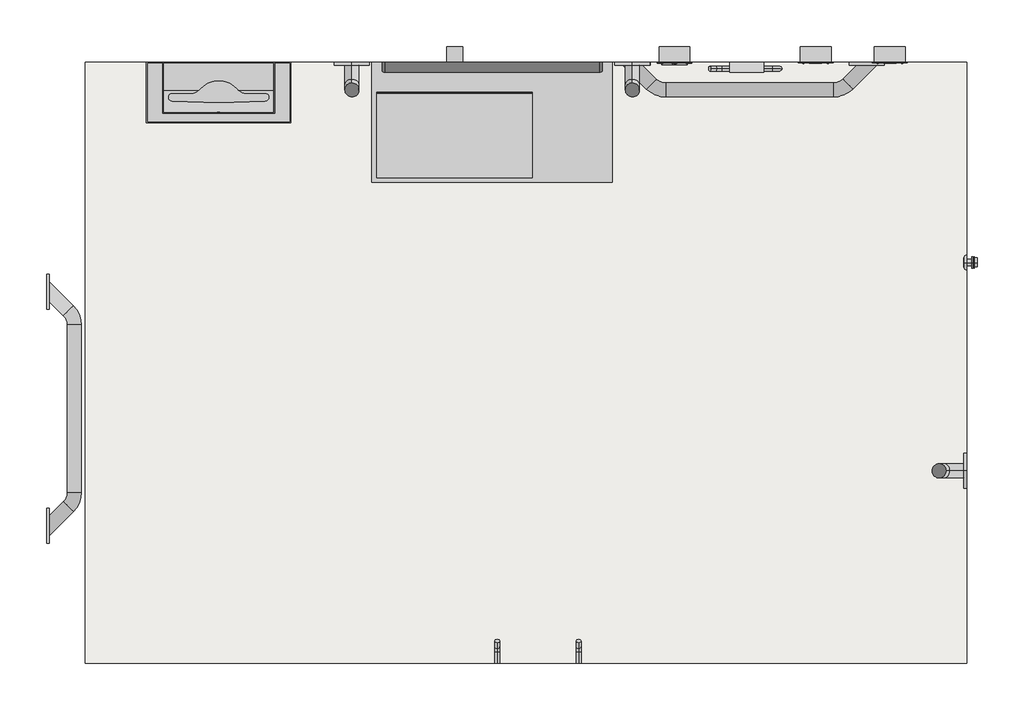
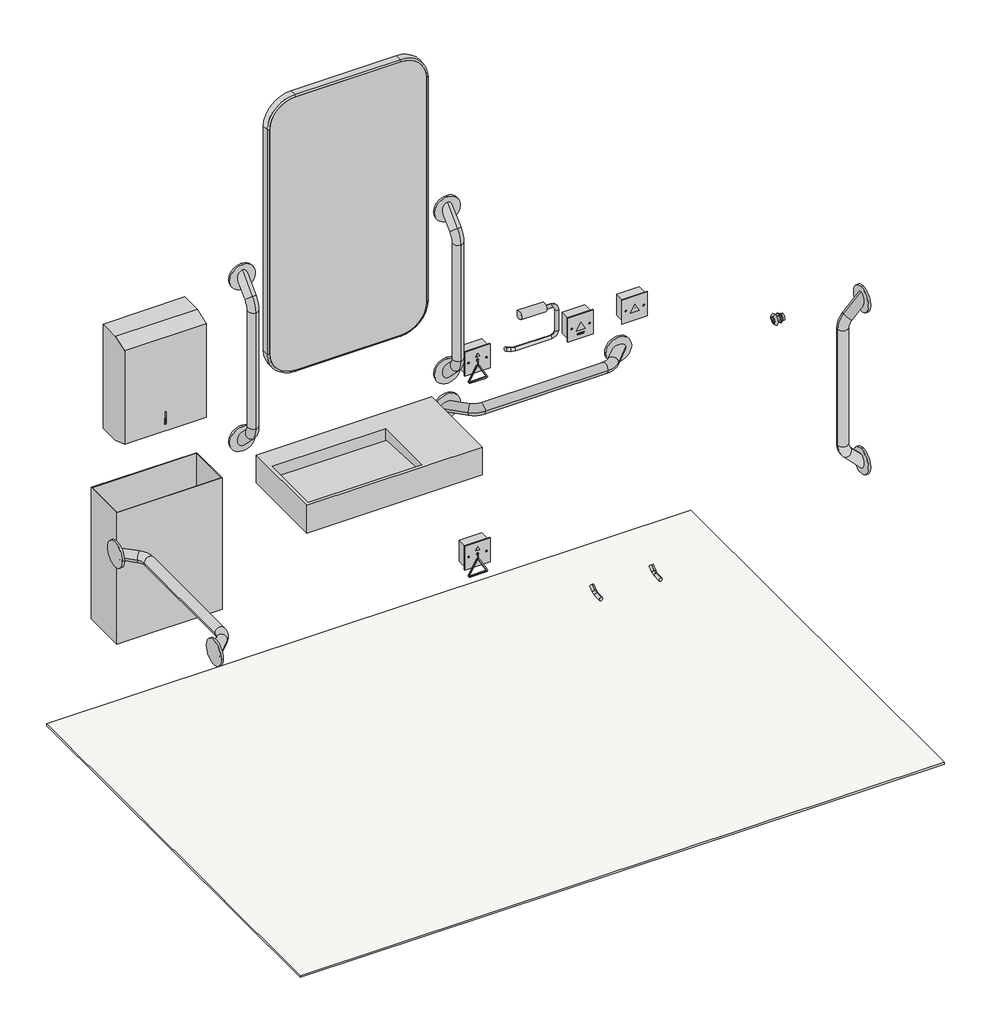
# One storey, incomplete: 17 proxies, 1 flow terminal, 1 slab.
"""IFC4 building model written with IfcOpenShell, lengths in millimetres."""

from ifc_helpers import new_model, si_unit, frame, origin, place, context, project, spatial, polyline, outline, extrude, transform, mapped, element, save
from components import communication_devices_be0d23eb, communication_devices_a7ff74ee, communication_devices_bc887a28, specialty_equipment_145b7e67, default_dbb53d0f, default_9fe8953b, tsl_279_cs_satin_eb8fa19e, tsl_45_cs_satin_2506d694, tsl_721_cs_satin_931a8dce, tsl_735_cs_satin_22d366d7, tsl_974_cs_satin_c187cbd4, default_49a61917

model = new_model("IFC4")

# Units and contexts
model_context = context("Model", 3, world=origin())
ifc_project = project(units=[si_unit("LENGTHUNIT", "METRE", prefix="MILLI")], contexts=[model_context])

# Site, building, storey
site = spatial("IfcSite", under=ifc_project)
building = spatial("IfcBuilding", under=site)
storey = spatial("IfcBuildingStorey", under=building, Name="TSL LAYOUTS", Elevation=3657.6)

# Proxies
placement = place(None, origin())
communication_devices_shape = communication_devices_be0d23eb(model_context)
element("IfcBuildingElementProxy", 1, Name="TSL_UK - TSLSZPC - Single Zone Assistance Alarm Kit : TSL.SZPC.CS - Satin - Reset Button", ObjectType="TSL_UK - TSLSZPC - Single Zone Assistance Alarm Kit : TSL.SZPC.CS - Satin - Reset Button", at=placement, inside=storey, context=model_context, shape_type="MappedRepresentation", body=[
    mapped(communication_devices_shape, transform((2352.9419031, 2274.5885237, 4463.95), x_axis=(1.0, 0.0, 0.0), y_axis=(0.0, 1.0, 0.0), z_axis=(0.0, 0.0, 1.0))),
])
communication_devices_2_shape = communication_devices_a7ff74ee(model_context)
element("IfcBuildingElementProxy", 2, Name="TSL_UK - TSLSZPC - Single Zone Assistance Alarm Kit : TSL.SZPC.CS - Satin - Chord", ObjectType="TSL_UK - TSLSZPC - Single Zone Assistance Alarm Kit : TSL.SZPC.CS - Satin - Chord", at=placement, inside=storey, context=model_context, shape_type="MappedRepresentation", body=[
    mapped(communication_devices_2_shape, transform((2000.6419031, 2274.5885237, 3763.95), x_axis=(1.0, 0.0, 0.0), y_axis=(0.0, 1.0, 0.0), z_axis=(0.0, 0.0, 1.0))),
])
element("IfcBuildingElementProxy", 3, Name="TSL_UK - TSLSZPC - Single Zone Assistance Alarm Kit : TSL.SZPC.CS - Satin - Chord", ObjectType="TSL_UK - TSLSZPC - Single Zone Assistance Alarm Kit : TSL.SZPC.CS - Satin - Chord", at=placement, inside=storey, context=model_context, shape_type="MappedRepresentation", body=[
    mapped(communication_devices_2_shape, transform((2000.6419031, 2274.5885237, 4463.95), x_axis=(1.0, 0.0, 0.0), y_axis=(0.0, 1.0, 0.0), z_axis=(0.0, 0.0, 1.0))),
])
communication_devices_3_shape = communication_devices_bc887a28(model_context)
element("IfcBuildingElementProxy", 4, Name="TSL_UK - TSLSZPC - Single Zone Assistance Alarm Kit : TSL.SZPC.CS - Satin - Light and Buzzer", ObjectType="TSL_UK - TSLSZPC - Single Zone Assistance Alarm Kit : TSL.SZPC.CS - Satin - Light and Buzzer", at=placement, inside=storey, context=model_context, shape_type="MappedRepresentation", body=[
    mapped(communication_devices_3_shape, transform((2537.9419031, 2274.5885237, 4463.95), x_axis=(1.0, 0.0, 0.0), y_axis=(0.0, 1.0, 0.0), z_axis=(0.0, 0.0, 1.0))),
])
specialty_equipment_shape = specialty_equipment_145b7e67(model_context)
element("IfcBuildingElementProxy", 5, Name="TSL_UK - TSLMR20 - Wall Mounted Mirror Rectangular : TSL.MR.20 - Satin", ObjectType="TSL_UK - TSLMR20 - Wall Mounted Mirror Rectangular : TSL.MR.20 - Satin", at=placement, inside=storey, context=model_context, shape_type="MappedRepresentation", body=[
    mapped(specialty_equipment_shape, transform((1545.6419031, 2274.5885237, 3657.6), x_axis=(1.0, 0.0, 0.0), y_axis=(0.0, 1.0, 0.0), z_axis=(0.0, 0.0, 1.0))),
])
default_shape = default_dbb53d0f(model_context)
element("IfcBuildingElementProxy", 6, Name="TSL_UK - TSLMONODDA - Monolith Basin - Nest - Shared : Default", ObjectType="TSL_UK - TSLMONODDA - Monolith Basin - Nest - Shared : Default", at=placement, inside=storey, context=model_context, shape_type="MappedRepresentation", body=[
    mapped(default_shape, transform((1545.6419031, 2274.5885237, 3663.95), x_axis=(-1.0, 0.0, 0.0), y_axis=(0.0, -1.0, 0.0), z_axis=(0.0, 0.0, 1.0))),
])
default_2_shape = default_9fe8953b(model_context)
element("IfcBuildingElementProxy", 7, Name="TSL_UK - TSLGR45 - Radius ADA Grab Bars - Nest - Shared : Default", ObjectType="TSL_UK - TSLGR45 - Radius ADA Grab Bars - Nest - Shared : Default", at=placement, inside=storey, context=model_context, shape_type="MappedRepresentation", body=[
    mapped(default_2_shape, transform((2187.9419031, 2274.5885237, 4337.6), x_axis=(1.0, 0.0, 0.0), y_axis=(0.0, 1.0, 0.0), z_axis=(0.0, 0.0, 1.0))),
])
element("IfcBuildingElementProxy", 8, Name="TSL_UK - TSLGR45 - Radius ADA Grab Bars - Nest - Shared : Default", ObjectType="TSL_UK - TSLGR45 - Radius ADA Grab Bars - Nest - Shared : Default", at=placement, inside=storey, context=model_context, shape_type="MappedRepresentation", body=[
    mapped(default_2_shape, transform((1895.6419031, 2274.5885237, 4757.1), x_axis=(0.0, 0.0, 1.0), y_axis=(0.0, 1.0, 0.0), z_axis=(-1.0, 0.0, 0.0))),
])
element("IfcBuildingElementProxy", 9, Name="TSL_UK - TSLGR45 - Radius ADA Grab Bars - Nest - Shared : Default", ObjectType="TSL_UK - TSLGR45 - Radius ADA Grab Bars - Nest - Shared : Default", at=placement, inside=storey, context=model_context, shape_type="MappedRepresentation", body=[
    mapped(default_2_shape, transform((1195.6419031, 2274.5885237, 4757.1), x_axis=(0.0, 0.0, 1.0), y_axis=(0.0, 1.0, 0.0), z_axis=(-1.0, 0.0, 0.0))),
])
element("IfcBuildingElementProxy", 10, Name="TSL_UK - TSLGR45 - Radius ADA Grab Bars - Nest - Shared : Default", ObjectType="TSL_UK - TSLGR45 - Radius ADA Grab Bars - Nest - Shared : Default", at=placement, inside=storey, context=model_context, shape_type="MappedRepresentation", body=[
    mapped(default_2_shape, transform((433.4044031, 1409.5885237, 4657.6), x_axis=(0.0, 1.0, 0.0), y_axis=(-1.0, 0.0, 0.0), z_axis=(0.0, 0.0, 1.0))),
])
element("IfcBuildingElementProxy", 11, Name="TSL_UK - TSLGR45 - Radius ADA Grab Bars - Nest - Shared : Default", ObjectType="TSL_UK - TSLGR45 - Radius ADA Grab Bars - Nest - Shared : Default", at=placement, inside=storey, context=model_context, shape_type="MappedRepresentation", body=[
    mapped(default_2_shape, transform((2730.2419031, 1254.5885237, 4757.1), x_axis=(0.0, 0.0, 1.0), y_axis=(1.0, 0.0, 0.0), z_axis=(0.0, 1.0, 0.0))),
])
tsl_279_cs_satin_shape = tsl_279_cs_satin_eb8fa19e(model_context)
element("IfcBuildingElementProxy", 12, Name="TSL_UK - TSL279 - 25L Waste Receptacle : TSL.279.CS - Satin", ObjectType="TSL_UK - TSL279 - 25L Waste Receptacle : TSL.279.CS - Satin", at=placement, inside=storey, context=model_context, shape_type="MappedRepresentation", body=[
    mapped(tsl_279_cs_satin_shape, transform((862.9419031, 2274.5885237, 3663.95), x_axis=(1.0, 0.0, 0.0), y_axis=(0.0, 1.0, 0.0), z_axis=(0.0, 0.0, 1.0))),
])
tsl_45_cs_satin_shape = tsl_45_cs_satin_2506d694(model_context)
element("IfcBuildingElementProxy", 13, Name="TSL_UK - TSL45 - Single Toilet Roll Holder : TSL.45.CS - Satin", ObjectType="TSL_UK - TSL45 - Single Toilet Roll Holder : TSL.45.CS - Satin", at=placement, inside=storey, context=model_context, shape_type="MappedRepresentation", body=[
    mapped(tsl_45_cs_satin_shape, transform((2177.9419031, 2274.5885237, 3663.95), x_axis=(1.0, 0.0, 0.0), y_axis=(0.0, 1.0, 0.0), z_axis=(0.0, 0.0, 1.0))),
])
tsl_721_cs_satin_shape = tsl_721_cs_satin_931a8dce(model_context)
element("IfcBuildingElementProxy", 14, Name="TSL_UK - TSL721 - WC Flush Valve : TSL.721.CS - Satin", ObjectType="TSL_UK - TSL721 - WC Flush Valve : TSL.721.CS - Satin", at=placement, inside=storey, context=model_context, shape_type="MappedRepresentation", body=[
    mapped(tsl_721_cs_satin_shape, transform((2730.2419031, 1774.5885237, 3657.6), x_axis=(0.0, -1.0, 0.0), y_axis=(1.0, 0.0, 0.0), z_axis=(0.0, 0.0, 1.0))),
])
tsl_735_cs_satin_shape = tsl_735_cs_satin_22d366d7(model_context)
element("IfcBuildingElementProxy", 15, Name="TSL_UK - TSL735 - Wall Mounted Paper Towel Dispenser : TSL.735.CS - Satin", ObjectType="TSL_UK - TSL735 - Wall Mounted Paper Towel Dispenser : TSL.735.CS - Satin", at=placement, inside=storey, context=model_context, shape_type="MappedRepresentation", body=[
    mapped(tsl_735_cs_satin_shape, transform((862.9419031, 2274.5885237, 3663.95), x_axis=(1.0, 0.0, 0.0), y_axis=(0.0, 1.0, 0.0), z_axis=(0.0, 0.0, 1.0))),
])
tsl_974_cs_satin_shape = tsl_974_cs_satin_c187cbd4(model_context)
element("IfcBuildingElementProxy", 16, Name="TSL_UK - TSL974 - Coat Hook : TSL.974.CS - Satin", ObjectType="TSL_UK - TSL974 - Coat Hook : TSL.974.CS - Satin", at=placement, inside=storey, context=model_context, shape_type="MappedRepresentation", body=[
    mapped(tsl_974_cs_satin_shape, transform((1558.3063811, 774.5885237, 3663.95), x_axis=(-1.0, 0.0, 0.0), y_axis=(0.0, -1.0, 0.0), z_axis=(0.0, 0.0, 1.0))),
])
element("IfcBuildingElementProxy", 17, Name="TSL_UK - TSL974 - Coat Hook : TSL.974.CS - Satin", ObjectType="TSL_UK - TSL974 - Coat Hook : TSL.974.CS - Satin", at=placement, inside=storey, context=model_context, shape_type="MappedRepresentation", body=[
    mapped(tsl_974_cs_satin_shape, transform((1761.5063811, 774.5885237, 3663.95), x_axis=(-1.0, 0.0, 0.0), y_axis=(0.0, -1.0, 0.0), z_axis=(0.0, 0.0, 1.0))),
])

# Flow terminal
default_3_shape = default_49a61917(model_context)
element("IfcFlowTerminal", 18, ObjectType="TSL_UK - TSLDRAIN - Trap - Straight - Nest : Default", at=placement, inside=storey, context=model_context, shape_type="MappedRepresentation", body=[
    mapped(default_3_shape, transform((1451.6419031, 2197.5050201, 3663.95), x_axis=(-1.0, 0.0, 0.0), y_axis=(0.0, -1.0, 0.0), z_axis=(0.0, 0.0, 1.0))),
])

# Slab
element("IfcSlab", 19, ObjectType="Tile Floor", at=placement, inside=storey, context=model_context, shape_type="SweptSolid", body=[
    extrude(outline(polyline([(2730.2419031, 774.5885237), (530.2419031, 774.5885237), (530.2419031, 2274.5885237), (2730.2419031, 2274.5885237), (2730.2419031, 774.5885237)])), frame((0.0, 0.0, 3657.6), z_axis=(0.0, 0.0, 1.0), x_axis=(1.0, 0.0, 0.0)), (0.0, 0.0, 1.0), 6.35),
])

save(model, "model.ifc")
